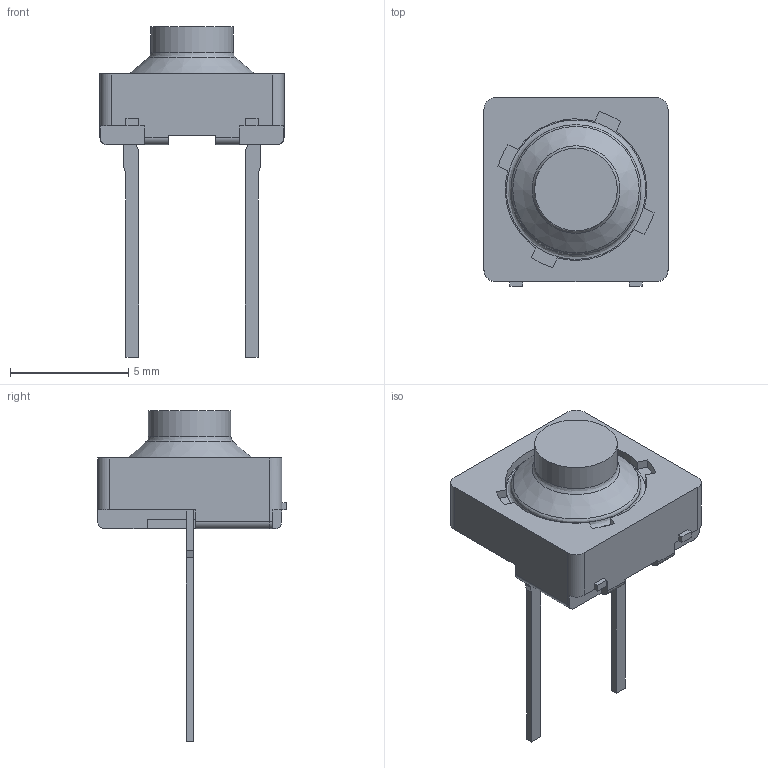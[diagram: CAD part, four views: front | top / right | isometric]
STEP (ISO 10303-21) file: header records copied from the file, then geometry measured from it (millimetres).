
FILE_DESCRIPTION (( 'STEP AP203' ), '1' );
FILE_NAME ('SKPDAM.step', '2015-03-14T23:36:25', ( '' ), ( '' ), 'SwSTEP 2.0', 'SolidWorks 2013', '' );
FILE_SCHEMA (( 'CONFIG_CONTROL_DESIGN' ));
Length unit declared in the file: inch
Products named in the file (1): SKPDAM
Bounding box: 7.8 x 8 x 14 mm (x, y, z)
Volume: 179.7 mm3; surface area: 289.6 mm2
Topology: 1 solids, 1 shells, 114 faces, 323 edges, 213 vertices
Faces by surface type: plane 84, cylinder 24, bspline 3, torus 2, cone 1
Full cylindrical faces by diameter (mm): 3.5 x1, 5.5 x1
Entity records: 3836 total; most frequent: CARTESIAN_POINT 804, ORIENTED_EDGE 628, DIRECTION 592, EDGE_CURVE 314, VECTOR 252, LINE 252, VERTEX_POINT 210, AXIS2_PLACEMENT_3D 170
